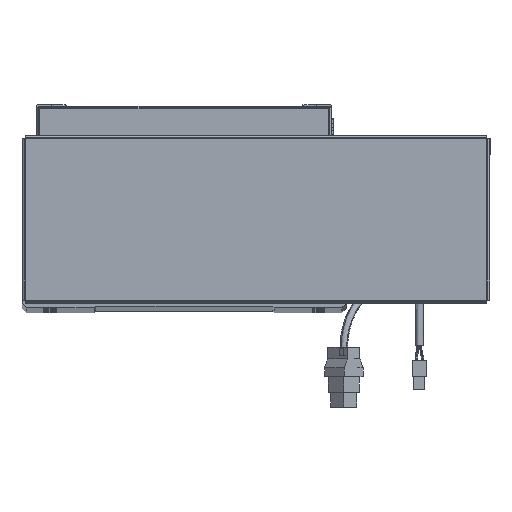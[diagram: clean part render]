
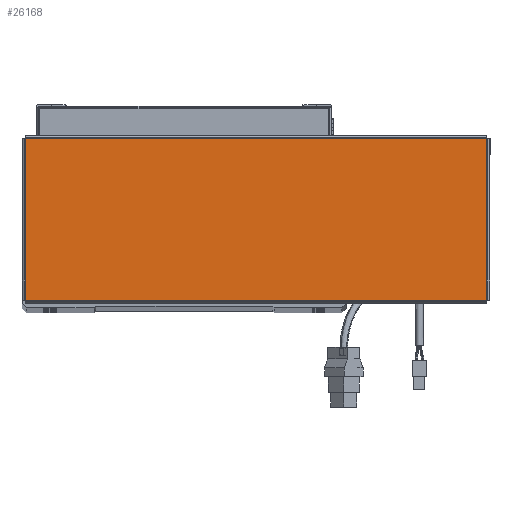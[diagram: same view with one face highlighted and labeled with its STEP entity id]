
A CAD part, top view. The second image highlights one B-rep face of the part: STEP entity #26168.
In plain terms, the highlighted planar face has unit normal (0, 0, 1).
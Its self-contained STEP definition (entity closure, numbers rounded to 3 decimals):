
#3439 = VECTOR ( 'NONE', #21739, 1000. ) ;
#5183 = VECTOR ( 'NONE', #67487, 1000. ) ;
#6810 = PLANE ( 'NONE',  #42323 ) ;
#12655 = CARTESIAN_POINT ( 'NONE',  ( 156.513, -54.763, 0. ) ) ;
#12761 = DIRECTION ( 'NONE',  ( 1., 0., 0. ) ) ;
#14536 = LINE ( 'NONE', #21051, #3439 ) ;
#14833 = ORIENTED_EDGE ( 'NONE', *, *, #59035, .T. ) ;
#16480 = VERTEX_POINT ( 'NONE', #18703 ) ;
#17114 = CARTESIAN_POINT ( 'NONE',  ( 156.513, 54.763, 0. ) ) ;
#17801 = ORIENTED_EDGE ( 'NONE', *, *, #20345, .T. ) ;
#18490 = CARTESIAN_POINT ( 'NONE',  ( 156.543, 54.763, 0. ) ) ;
#18703 = CARTESIAN_POINT ( 'NONE',  ( -156.513, -54.763, 0. ) ) ;
#19444 = VECTOR ( 'NONE', #37353, 1000. ) ;
#19448 = EDGE_CURVE ( 'NONE', #16480, #37292, #14536, .T. ) ;
#20345 = EDGE_CURVE ( 'NONE', #30632, #16480, #24511, .T. ) ;
#20872 = EDGE_LOOP ( 'NONE', ( #31812, #56645, #14833, #17801 ) ) ;
#20968 = CARTESIAN_POINT ( 'NONE',  ( 156.513, -54.793, 0. ) ) ;
#21051 = CARTESIAN_POINT ( 'NONE',  ( -156.543, -54.763, 0. ) ) ;
#21739 = DIRECTION ( 'NONE',  ( 1., 0., 0. ) ) ;
#23419 = CARTESIAN_POINT ( 'NONE',  ( 0., 0., 0. ) ) ;
#24511 = LINE ( 'NONE', #26301, #19444 ) ;
#26168 = ADVANCED_FACE ( 'NONE', ( #31406 ), #6810, .T. ) ;
#26301 = CARTESIAN_POINT ( 'NONE',  ( -156.513, 54.793, 0. ) ) ;
#30632 = VERTEX_POINT ( 'NONE', #46899 ) ;
#31406 = FACE_OUTER_BOUND ( 'NONE', #20872, .T. ) ;
#31812 = ORIENTED_EDGE ( 'NONE', *, *, #19448, .T. ) ;
#34400 = DIRECTION ( 'NONE',  ( 0., 0., 1. ) ) ;
#37292 = VERTEX_POINT ( 'NONE', #12655 ) ;
#37353 = DIRECTION ( 'NONE',  ( 0., -1., 0. ) ) ;
#41110 = VECTOR ( 'NONE', #70025, 1000. ) ;
#42323 = AXIS2_PLACEMENT_3D ( 'NONE', #23419, #34400, #12761 ) ;
#45565 = VERTEX_POINT ( 'NONE', #17114 ) ;
#46899 = CARTESIAN_POINT ( 'NONE',  ( -156.513, 54.763, 0. ) ) ;
#48163 = EDGE_CURVE ( 'NONE', #37292, #45565, #53781, .T. ) ;
#53781 = LINE ( 'NONE', #20968, #41110 ) ;
#56645 = ORIENTED_EDGE ( 'NONE', *, *, #48163, .T. ) ;
#57203 = LINE ( 'NONE', #18490, #5183 ) ;
#59035 = EDGE_CURVE ( 'NONE', #45565, #30632, #57203, .T. ) ;
#67487 = DIRECTION ( 'NONE',  ( -1., 0., 0. ) ) ;
#70025 = DIRECTION ( 'NONE',  ( 0., 1., 0. ) ) ;
